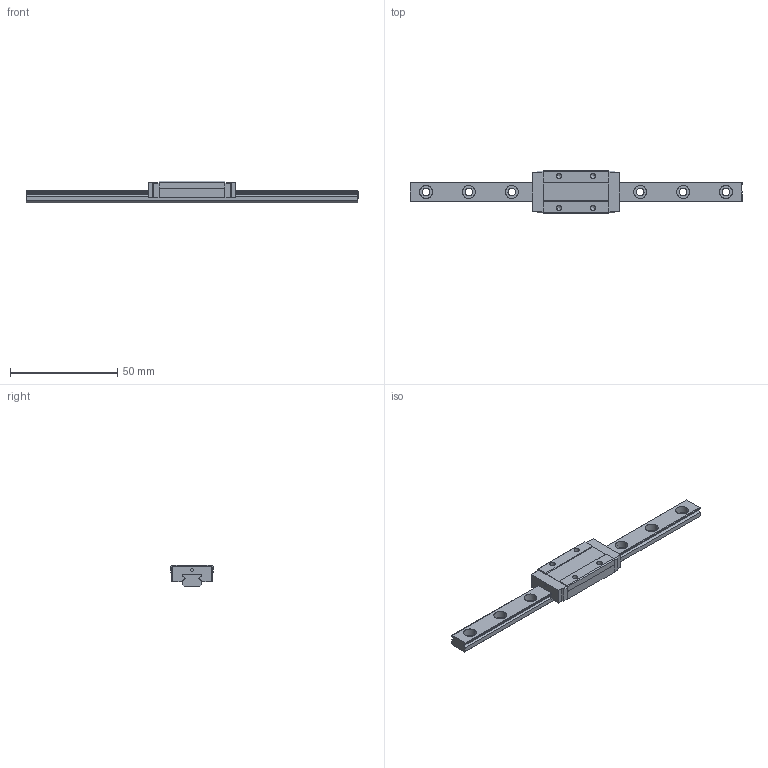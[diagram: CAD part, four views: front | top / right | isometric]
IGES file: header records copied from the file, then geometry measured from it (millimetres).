
Global section: file name: No Iges File Name specified; native system: AutoDesk Inventor R11.0; preprocessor: AutoDesk Inventor Iges Exporter R11.0; author: No Author specified; organization: No Organization specified; date: 20150221.131331; units: millimetre
Bounding box: 155 x 20 x 10 mm (x, y, z)
Surface area: 8403.6 mm2 (no closed solid volume)
Topology: 0 solids, 0 shells, 134 faces, 884 edges, 876 vertices
Faces by surface type: bspline 134
